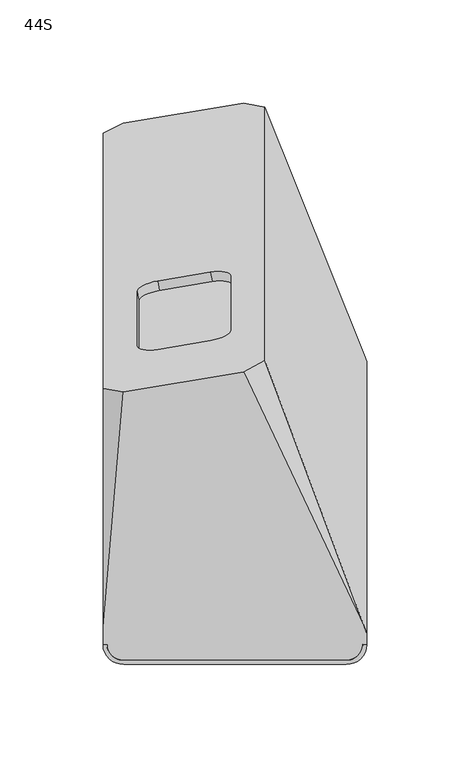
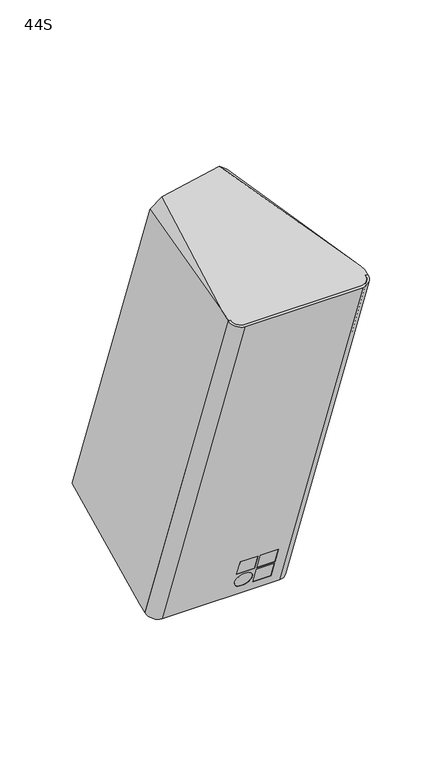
"""IFC4 building model written with IfcOpenShell, lengths in millimetres: proxy geometry, d&b xS-Series 44S Point Source : 44S."""

from ifc_helpers import new_model, si_unit, point, frame, frame_2d, origin, place, context, project, spatial, polyline, circle_curve, ellipse_curve, trimmed, segment, composite_curve, outline, extrude, source, transform, mapped, element, save
from ifc_brep_helpers import plane_surface, cylinder_surface, revolved_surface, advanced_brep


def proxy_44s_b701b6bb(model_context):
    return source(origin(), model_context, "Body", "SolidModel", [
        advanced_brep(
        [(54.0, -135.6612295, 156.4666939), (-54.078429, -135.6612295, 156.4666939), (-62.0435242, -128.129619, 159.0621446), (-64.0, -128.129619, 159.0621446), (-54.0, -137.5853886, 155.8036139), (54.0, -137.5853886, 155.8036139), (64.0349048, -128.0966138, 159.0735185), (62.0, -128.0966138, 159.0735185), (-54.078429, -3.3476788, -207.0617988), (54.0, -3.3476788, -207.0617988), (62.0, 4.1227875, -204.1963011), (64.0349048, 4.1227875, -204.1963011), (54.0, -5.2478898, -207.7906757), (-54.0, -5.2478898, -207.7906757), (-64.0, 4.0901931, -204.2088035), (-62.0435242, 4.0901931, -204.2088035), (25.3333333, -13.1402822, -180.1568421), (25.3333333, -18.7266112, -164.8085293), (9.0, -18.7266112, -164.8085293), (9.0, -13.1402822, -180.1568421), (44.0, -13.1402822, -180.1568421), (44.0, -18.7266112, -164.8085293), (27.6666667, -18.7266112, -164.8085293), (27.6666667, -13.1402822, -180.1568421), (44.0, -6.7559062, -197.6977711), (44.0, -12.3422352, -182.3494583), (27.6666667, -12.3422352, -182.3494583), (27.6666667, -6.7559062, -197.6977711), (17.1666667, -12.3422352, -182.3494583), (17.1666667, -6.7559062, -197.6977711), (25.3333333, -20.6387962, -165.5045078), (25.3333333, -15.0524672, -180.8528206), (9.0, -15.0524672, -180.8528206), (9.0, -20.6387962, -165.5045078), (44.0, -20.6387962, -165.5045078), (44.0, -15.0524672, -180.8528206), (27.6666667, -15.0524672, -180.8528206), (27.6666667, -20.6387962, -165.5045078), (44.0, -14.2544202, -183.0454367), (44.0, -8.6680912, -198.3937495), (27.6666667, -8.6680912, -198.3937495), (27.6666667, -14.2544202, -183.0454367), (17.1666667, -8.6680912, -198.3937495), (17.1666667, -14.2544202, -183.0454367)],
        [
            (0, 1),
            (1, 2, ellipse_curve(frame((-54.078429, -128.129619, 159.0621446), z_axis=(0.0, 0.3258048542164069, -0.9454370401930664), x_axis=(0.0, 0.9454370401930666, 0.32580485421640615)), 7.9662739, 7.9650952)),
            (2, 3),
            (3, 4, ellipse_curve(frame((-54.0, -128.129619, 159.0621446), z_axis=(0.0, -0.3258048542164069, 0.9454370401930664), x_axis=(0.0, -0.9454370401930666, -0.32580485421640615)), 10.0014799, 10.0)),
            (4, 5),
            (5, 6, ellipse_curve(frame((54.0, -128.0966138, 159.0735185), z_axis=(0.0, -0.3258048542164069, 0.9454370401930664), x_axis=(0.0, -0.9454370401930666, -0.32580485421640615)), 10.0363899, 10.0349048)),
            (6, 7),
            (7, 0, ellipse_curve(frame((54.0, -128.0966138, 159.0735185), z_axis=(0.0, 0.3258048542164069, -0.9454370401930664), x_axis=(0.0, 0.9454370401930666, 0.32580485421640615)), 8.0011839, 8.0)),
            (8, 9),
            (9, 10, ellipse_curve(frame((54.0, 4.1227875, -204.1963011), z_axis=(0.0, -0.35813421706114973, 0.9336701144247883), x_axis=(0.0, -0.9336701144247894, -0.35813421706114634)), 8.0011839, 8.0)),
            (10, 11),
            (11, 12, ellipse_curve(frame((54.0, 4.1227875, -204.1963011), z_axis=(0.0, 0.35813421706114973, -0.9336701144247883), x_axis=(0.0, 0.9336701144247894, 0.35813421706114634)), 10.0363899, 10.0349048)),
            (12, 13),
            (13, 14, ellipse_curve(frame((-54.0, 4.0901931, -204.2088035), z_axis=(0.0, 0.35813421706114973, -0.9336701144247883), x_axis=(0.0, 0.9336701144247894, 0.35813421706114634)), 10.0014799, 10.0)),
            (14, 15),
            (15, 8, ellipse_curve(frame((-54.078429, 4.0901931, -204.2088035), z_axis=(0.0, -0.35813421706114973, 0.9336701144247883), x_axis=(0.0, -0.9336701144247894, -0.35813421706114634)), 7.9662739, 7.9650952)),
            (0, 9),
            (8, 1),
            (16, 17),
            (17, 18),
            (18, 19),
            (19, 16),
            (20, 21),
            (21, 22),
            (22, 23),
            (23, 20),
            (24, 25),
            (25, 26),
            (26, 27),
            (27, 24),
            (28, 29, circle_curve(frame((17.1666667, -9.5490707, -190.0236147), z_axis=(0.0, -0.939692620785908, -0.3420201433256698), x_axis=(0.0, -0.3420201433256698, 0.939692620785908)), 8.1666667)),
            (29, 28, circle_curve(frame((17.1666667, -9.5490707, -190.0236147), z_axis=(0.0, -0.939692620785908, -0.3420201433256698), x_axis=(0.0, -0.3420201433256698, 0.939692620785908)), 8.1666667)),
            (15, 2),
            (14, 3),
            (13, 4),
            (12, 5),
            (30, 31),
            (31, 32),
            (32, 33),
            (33, 30),
            (34, 35),
            (35, 36),
            (36, 37),
            (37, 34),
            (38, 39),
            (39, 40),
            (40, 41),
            (41, 38),
            (42, 43, circle_curve(frame((17.1666667, -11.4612557, -190.7195931), z_axis=(0.0, 0.939692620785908, 0.3420201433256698), x_axis=(0.0, -0.3420201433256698, 0.939692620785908)), 8.1666667)),
            (43, 42, circle_curve(frame((17.1666667, -11.4612557, -190.7195931), z_axis=(0.0, 0.939692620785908, 0.3420201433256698), x_axis=(0.0, -0.3420201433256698, 0.939692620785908)), 8.1666667)),
            (11, 6),
            (10, 7),
            (16, 31),
            (30, 17),
            (19, 32),
            (18, 33),
            (20, 35),
            (34, 21),
            (23, 36),
            (22, 37),
            (24, 39),
            (38, 25),
            (27, 40),
            (26, 41),
            (28, 43),
            (42, 29),
        ],
        [
            plane_surface(frame((100.0, -157.7293536, 148.8618491), z_axis=(0.0, -0.3258048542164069, 0.9454370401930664), x_axis=(-1.0, 0.0, 0.0))),
            plane_surface(frame((100.0, 144.1511169, -150.4846792), z_axis=(0.0, 0.35813421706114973, -0.9336701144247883), x_axis=(-1.0, 0.0, 0.0))),
            plane_surface(frame((54.0, -138.7635332, 164.9902033), z_axis=(0.0, 0.9396926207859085, 0.3420201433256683), x_axis=(0.0, 0.3420201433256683, -0.9396926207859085))),
            revolved_surface(polyline([(-46.1133338, 4.137062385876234, -204.33757579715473), (-46.1133338, -128.1764882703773, 159.1909169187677)]), (-54.078429, 7.2393661, -212.8610852), (0.0, 0.3420201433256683, -0.9396926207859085)),
            plane_surface(frame((-62.0435242, -131.278792, 167.7144262), z_axis=(0.0, 0.9396926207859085, 0.3420201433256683), x_axis=(0.0, 0.3420201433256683, -0.9396926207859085))),
            cylinder_surface(frame((-54.0, 7.2393661, -212.8610852), z_axis=(0.0, -0.3420201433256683, 0.9396926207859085), x_axis=(1.0, 0.0, 0.0)), 10.0),
            plane_surface(frame((-54.0, -140.6757182, 164.2942248), z_axis=(0.0, -0.9396926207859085, -0.3420201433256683), x_axis=(0.0, 0.3420201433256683, -0.9396926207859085))),
            cylinder_surface(frame((54.0, 7.2721658, -212.849147), z_axis=(0.0, -0.3420201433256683, 0.9396926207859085), x_axis=(1.0, 0.0, 0.0)), 10.0349048),
            plane_surface(frame((64.0349048, -131.2459922, 167.7263644), z_axis=(0.0, 0.9396926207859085, 0.3420201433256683), x_axis=(0.0, 0.3420201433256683, -0.9396926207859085))),
            revolved_surface(polyline([(62.0, 4.16986212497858, -204.32563770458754), (62.0, -128.14368854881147, 159.2028550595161)]), (54.0, 7.2721658, -212.849147), (0.0, 0.3420201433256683, -0.9396926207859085)),
            plane_surface(frame((25.3333333, -15.0524672, -180.8528206), z_axis=(-1.0, 0.0, 0.0), x_axis=(0.0, 0.9396926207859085, 0.3420201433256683))),
            plane_surface(frame((9.0, -15.0524672, -180.8528206), z_axis=(0.0, -0.3420201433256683, 0.9396926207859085), x_axis=(0.0, 0.9396926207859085, 0.3420201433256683))),
            plane_surface(frame((9.0, -20.6387962, -165.5045078), z_axis=(1.0, 0.0, 0.0), x_axis=(0.0, 0.9396926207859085, 0.3420201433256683))),
            plane_surface(frame((25.3333333, -20.6387962, -165.5045078), z_axis=(0.0, 0.3420201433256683, -0.9396926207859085), x_axis=(0.0, 0.9396926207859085, 0.3420201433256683))),
            plane_surface(frame((44.0, -15.0524672, -180.8528206), z_axis=(-1.0, 0.0, 0.0), x_axis=(0.0, 0.9396926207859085, 0.3420201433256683))),
            plane_surface(frame((27.6666667, -15.0524672, -180.8528206), z_axis=(0.0, -0.3420201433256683, 0.9396926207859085), x_axis=(0.0, 0.9396926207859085, 0.3420201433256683))),
            plane_surface(frame((27.6666667, -20.6387962, -165.5045078), z_axis=(1.0, 0.0, 0.0), x_axis=(0.0, 0.9396926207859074, 0.3420201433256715))),
            plane_surface(frame((44.0, -20.6387962, -165.5045078), z_axis=(0.0, 0.3420201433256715, -0.9396926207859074), x_axis=(0.0, 0.9396926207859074, 0.3420201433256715))),
            plane_surface(frame((44.0, -8.6680912, -198.3937495), z_axis=(-1.0, 0.0, 0.0), x_axis=(0.0, 0.9396926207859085, 0.3420201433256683))),
            plane_surface(frame((27.6666667, -8.6680912, -198.3937495), z_axis=(0.0, -0.3420201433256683, 0.9396926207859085), x_axis=(0.0, 0.9396926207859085, 0.3420201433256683))),
            plane_surface(frame((27.6666667, -14.2544202, -183.0454367), z_axis=(1.0, 0.0, 0.0), x_axis=(0.0, 0.9396926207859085, 0.3420201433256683))),
            plane_surface(frame((44.0, -14.2544202, -183.0454367), z_axis=(0.0, 0.3420201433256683, -0.9396926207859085), x_axis=(0.0, 0.9396926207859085, 0.3420201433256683))),
            revolved_surface(polyline([(17.1666667, -14.254420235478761, -183.04543661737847), (17.1666667, -12.34223523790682, -182.3494581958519)]), (17.1666667, 45.1573782, -170.1120956), (0.0, -0.939692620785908, -0.3420201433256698)),
        ],
        [
            (0, [[1, 2, 3, 4, 5, 6, 7, 8]]),
            (1, [[9, 10, 11, 12, 13, 14, 15, 16]]),
            (2, [[17, -9, 18, -1], [19, 20, 21, 22], [23, 24, 25, 26], [27, 28, 29, 30], [31, 32]]),
            (3, [[-18, -16, 33, -2]]),
            (4, [[-33, -15, 34, -3]]),
            (5, [[-34, -14, 35, -4]]),
            (6, [[-35, -13, 36, -5], [37, 38, 39, 40], [41, 42, 43, 44], [45, 46, 47, 48], [49, 50]]),
            (7, [[-36, -12, 51, -6]]),
            (8, [[-51, -11, 52, -7]]),
            (9, [[-17, -8, -52, -10]]),
            (10, [[53, -37, 54, -19]]),
            (11, [[-53, -22, 55, -38]]),
            (12, [[-55, -21, 56, -39]]),
            (13, [[-56, -20, -54, -40]]),
            (14, [[57, -41, 58, -23]]),
            (15, [[-57, -26, 59, -42]]),
            (16, [[-59, -25, 60, -43]]),
            (17, [[-60, -24, -58, -44]]),
            (18, [[61, -45, 62, -27]]),
            (19, [[-61, -30, 63, -46]]),
            (20, [[-63, -29, 64, -47]]),
            (21, [[-64, -28, -62, -48]]),
            (22, [[65, -49, 66, -31]]),
            (22, [[-65, -32, -66, -50]]),
        ],
    ),
        extrude(outline(polyline([(0.0, -16.3333333), (0.0, 0.0), (5.0, 0.0), (5.0, -16.3333333), (0.0, -16.3333333)])), frame((9.0, -15.0524672, -180.8528206), z_axis=(0.0, -0.3420201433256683, 0.9396926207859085), x_axis=(0.0, 0.9396926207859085, 0.3420201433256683)), (0.0, 0.0, 1.0), 16.3333333),
        extrude(outline(polyline([(0.0, -16.3333333), (0.0, 0.0), (5.0, 0.0), (5.0, -16.3333333), (0.0, -16.3333333)])), frame((27.6666667, -15.0524672, -180.8528206), z_axis=(0.0, -0.3420201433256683, 0.9396926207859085), x_axis=(0.0, 0.9396926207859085, 0.3420201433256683)), (0.0, 0.0, 1.0), 16.3333333),
        extrude(outline(polyline([(0.0, -16.3333333), (0.0, 0.0), (5.0, 0.0), (5.0, -16.3333333), (0.0, -16.3333333)])), frame((27.6666667, -8.6680912, -198.3937495), z_axis=(0.0, -0.3420201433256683, 0.9396926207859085), x_axis=(0.0, 0.9396926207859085, 0.3420201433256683)), (0.0, 0.0, 1.0), 16.3333333),
        extrude(outline(composite_curve([segment(trimmed(circle_curve(frame_2d((-17.5, -26.8333333)), 8.1666667), [point((-17.5, -35.0))], [point((-17.5, -18.6666666))], False, "CARTESIAN"), True, "CONTINUOUS"), segment(trimmed(circle_curve(frame_2d((-17.5, -26.8333333)), 8.1666667), [point((-17.5, -18.6666666))], [point((-17.5, -35.0))], False, "CARTESIAN"), True, "CONTINUOUS")], self_intersect=False)), frame((-0.3333333, -20.6387962, -165.5045078), z_axis=(0.0, 0.939692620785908, 0.3420201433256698), x_axis=(-1.0, 0.0, 0.0)), (0.0, 0.0, 1.0), 5.0),
        advanced_brep(
        [(-64.0, -128.129619, 159.0621446), (-62.0435242, -128.129619, 159.0621446), (-54.078429, -135.6612295, 156.4666939), (54.0, -135.6612295, 156.4666939), (62.0, -128.0966138, 159.0735185), (64.0, -128.0966138, 159.0735185), (64.0, -122.4891625, 161.0058892), (62.7855103, -119.3331677, 162.0934692), (4.3760941, 4.4543343, 204.7515916), (-54.074657, -5.2912021, 201.3932051), (-64.0, -119.3331677, 162.0934692), (-62.0435242, 4.0901931, -204.2088035), (-64.0, 4.0901931, -204.2088035), (-64.0, 12.7771637, -200.8766829), (-54.074657, 125.3997609, -157.6772648), (4.3760941, 135.0240042, -153.9856281), (62.7855103, 12.7771637, -200.8766829), (64.0, 9.6604484, -202.0721827), (64.0, 4.1227875, -204.1963011), (62.0, 4.1227875, -204.1963011), (54.0, -3.3476788, -207.0617988), (-54.078429, -3.3476788, -207.0617988), (-64.0, -3.6006545, 191.6314967), (-64.0, 120.4200903, -149.1126992), (14.5000481, 132.9559633, -143.0843726), (14.5000481, 9.877315, 195.0714344), (-11.9474751, 19.6646756, 154.5459781), (-37.5524767, 15.4221019, 153.0018075), (-47.4005542, 17.2105442, 143.0109696), (-47.4005542, 43.5460952, 70.6546378), (-37.5524767, 48.5980558, 61.8516233), (-11.9474751, 52.8406295, 63.3957938), (-2.0993976, 51.0521871, 73.3866318), (-2.0993976, 24.7166361, 145.7429636), (-11.0792343, 15.0375927, 152.8618576), (-1.2311567, 20.0895532, 144.0588431), (-1.2311567, 46.4251042, 71.7025113), (-11.0792343, 48.2135466, 61.7116734), (-36.6842358, 43.9709729, 60.1675029), (-46.5323134, 38.9190123, 68.9705173), (-46.5323134, 12.5834613, 141.3268491), (-36.6842358, 10.795019, 151.3176871)],
        [
            (0, 1),
            (1, 2, ellipse_curve(frame((-54.078429, -128.129619, 159.0621446), z_axis=(0.0, -0.3258048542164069, 0.9454370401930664), x_axis=(0.0, -0.9454370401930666, -0.32580485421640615)), 7.9662739, 7.9650952)),
            (2, 3),
            (3, 4, ellipse_curve(frame((54.0, -128.0966138, 159.0735185), z_axis=(0.0, -0.3258048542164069, 0.9454370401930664), x_axis=(0.0, -0.9454370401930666, -0.32580485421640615)), 8.0011839, 8.0)),
            (4, 5),
            (5, 6),
            (6, 7),
            (7, 8),
            (8, 9),
            (9, 10),
            (10, 0),
            (11, 12),
            (12, 13),
            (13, 14),
            (14, 15),
            (15, 16),
            (16, 17),
            (17, 18),
            (18, 19),
            (19, 20, ellipse_curve(frame((54.0, 4.1227875, -204.1963011), z_axis=(0.0, 0.35813421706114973, -0.9336701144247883), x_axis=(0.0, 0.9336701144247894, 0.35813421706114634)), 8.0011839, 8.0)),
            (20, 21),
            (21, 11, ellipse_curve(frame((-54.078429, 4.0901931, -204.2088035), z_axis=(0.0, 0.35813421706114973, -0.9336701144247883), x_axis=(0.0, 0.9336701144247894, 0.35813421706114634)), 7.9662739, 7.9650952)),
            (0, 12),
            (11, 1),
            (21, 2),
            (20, 3),
            (19, 4),
            (18, 5),
            (17, 6),
            (10, 22),
            (22, 23),
            (23, 13),
            (16, 24),
            (24, 25),
            (25, 7),
            (9, 22),
            (23, 14),
            (15, 24),
            (25, 8),
            (26, 27),
            (27, 28, circle_curve(frame((-37.5524767, 18.8423033, 143.6048813), z_axis=(0.17364817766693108, -0.9254165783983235, -0.33682408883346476), x_axis=(0.9848077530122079, 0.16317591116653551, 0.05939117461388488)), 10.0)),
            (28, 29),
            (29, 30, circle_curve(frame((-37.5524767, 45.1778543, 71.2485495), z_axis=(0.17364817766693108, -0.9254165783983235, -0.33682408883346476), x_axis=(0.9848077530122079, 0.16317591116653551, 0.05939117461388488)), 10.0)),
            (30, 31),
            (31, 32, circle_curve(frame((-11.9474751, 49.420428, 72.79272), z_axis=(0.17364817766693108, -0.9254165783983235, -0.33682408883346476), x_axis=(0.9848077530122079, 0.16317591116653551, 0.05939117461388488)), 10.0)),
            (32, 33),
            (33, 26, circle_curve(frame((-11.9474751, 23.084877, 145.1490518), z_axis=(0.17364817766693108, -0.9254165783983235, -0.33682408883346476), x_axis=(0.9848077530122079, 0.16317591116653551, 0.05939117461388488)), 10.0)),
            (34, 35, circle_curve(frame((-11.0792343, 18.4577941, 143.4649314), z_axis=(-0.17364817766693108, 0.9254165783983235, 0.33682408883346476), x_axis=(0.9848077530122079, 0.16317591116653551, 0.05939117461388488)), 10.0)),
            (35, 36),
            (36, 37, circle_curve(frame((-11.0792343, 44.7933451, 71.1085996), z_axis=(-0.17364817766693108, 0.9254165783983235, 0.33682408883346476), x_axis=(0.9848077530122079, 0.16317591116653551, 0.05939117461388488)), 10.0)),
            (37, 38),
            (38, 39, circle_curve(frame((-36.6842358, 40.5507714, 69.5644291), z_axis=(-0.17364817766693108, 0.9254165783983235, 0.33682408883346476), x_axis=(0.9848077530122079, 0.16317591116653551, 0.05939117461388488)), 10.0)),
            (39, 40),
            (40, 41, circle_curve(frame((-36.6842358, 14.2152204, 141.9207609), z_axis=(-0.17364817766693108, 0.9254165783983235, 0.33682408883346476), x_axis=(0.9848077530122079, 0.16317591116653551, 0.05939117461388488)), 10.0)),
            (41, 34),
            (41, 27),
            (26, 34),
            (40, 28),
            (39, 29),
            (38, 30),
            (37, 31),
            (36, 32),
            (35, 33),
        ],
        [
            plane_surface(frame((100.0, -157.7293536, 148.8618491), z_axis=(0.0, -0.3258048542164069, 0.9454370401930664), x_axis=(-1.0, 0.0, 0.0))),
            plane_surface(frame((100.0, 144.1511169, -150.4846792), z_axis=(0.0, 0.35813421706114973, -0.9336701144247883), x_axis=(-1.0, 0.0, 0.0))),
            plane_surface(frame((-64.0, -132.8675629, 172.0795383), z_axis=(0.0, -0.9396926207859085, -0.3420201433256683), x_axis=(0.0, 0.3420201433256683, -0.9396926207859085))),
            cylinder_surface(frame((-54.078429, 8.8281369, -217.2261972), z_axis=(0.0, -0.3420201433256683, 0.9396926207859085), x_axis=(-1.0, 0.0, 0.0)), 7.9650952),
            plane_surface(frame((-54.078429, -140.352304, 169.3553153), z_axis=(0.0, -0.9396926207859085, -0.3420201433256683), x_axis=(0.0, 0.3420201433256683, -0.9396926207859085))),
            cylinder_surface(frame((54.0, 8.8609367, -217.2142591), z_axis=(0.0, -0.3420201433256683, 0.9396926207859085), x_axis=(-1.0, 0.0, 0.0)), 8.0),
            plane_surface(frame((62.0, -132.8347631, 172.0914765), z_axis=(0.0, -0.9396926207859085, -0.3420201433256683), x_axis=(0.0, 0.3420201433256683, -0.9396926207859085))),
            plane_surface(frame((64.0, -132.8347631, 172.0914765), z_axis=(1.0, 0.0, 0.0), x_axis=(0.0, 0.3420201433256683, -0.9396926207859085))),
            plane_surface(frame((-64.0, -127.2622069, 174.119721), z_axis=(-1.0, 0.0, 0.0), x_axis=(0.0, 0.3420201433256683, -0.9396926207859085))),
            plane_surface(frame((14.5000481, 71.4166392, 25.9935309), z_axis=(0.9397208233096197, 0.3213209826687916, 0.11695127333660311), x_axis=(0.0, -0.3420201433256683, 0.9396926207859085))),
            plane_surface(frame((-57.232233, 7.5626024, 201.431055), z_axis=(-0.7053631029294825, -0.17529705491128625, 0.6868288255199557), x_axis=(-0.7071067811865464, 0.24184476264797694, -0.6644630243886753))),
            plane_surface(frame((-57.232233, 135.2706759, -149.4439933), z_axis=(-0.7053631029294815, 0.30719972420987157, -0.6388201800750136), x_axis=(0.7071067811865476, 0.24184476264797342, -0.6644630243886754))),
            plane_surface(frame((7.7322812, 135.2706759, -149.4439933), z_axis=(0.6719558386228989, 0.5224136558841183, -0.5249374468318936), x_axis=(0.7071067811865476, -0.24184476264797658, 0.6644630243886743))),
            plane_surface(frame((7.7322812, 7.5626024, 201.431055), z_axis=(0.6719558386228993, 0.06276879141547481, 0.7379264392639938), x_axis=(-0.7071067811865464, -0.24184476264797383, 0.6644630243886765))),
            plane_surface(frame((-81.2585403, -29.95494, 255.1417366), z_axis=(-0.1736481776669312, 0.9254165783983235, 0.33682408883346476), x_axis=(0.0, 0.3420201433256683, -0.9396926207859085))),
            plane_surface(frame((-63.1317591, 6.4128452, 149.7227063), z_axis=(-0.1736481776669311, 0.9254165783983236, 0.3368240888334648), x_axis=(-0.984807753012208, -0.1631759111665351, -0.05939117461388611))),
            plane_surface(frame((-11.0792343, 15.0375927, 152.8618576), z_axis=(0.0, 0.34202014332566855, -0.9396926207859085), x_axis=(-0.17364817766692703, 0.9254165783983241, 0.336824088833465))),
            revolved_surface(polyline([(-26.836158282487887, 15.846979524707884, 142.51467260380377), (-27.704399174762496, 20.474062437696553, 144.1987930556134)]), (-37.5524767, 18.8423033, 143.6048813), (0.17364817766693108, -0.9254165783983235, -0.33682408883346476)),
            plane_surface(frame((-46.5323134, 12.5834613, 141.3268491), z_axis=(0.9848077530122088, 0.16317591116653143, 0.05939117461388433), x_axis=(-0.17364817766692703, 0.9254165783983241, 0.336824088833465))),
            revolved_surface(polyline([(-26.836158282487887, 42.18253052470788, 70.1583408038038), (-27.704399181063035, 46.80961347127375, 71.84246126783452)]), (-37.5524767, 45.1778543, 71.2485495), (0.17364817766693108, -0.9254165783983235, -0.33682408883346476)),
            plane_surface(frame((-36.6842358, 43.9709729, 60.1675029), z_axis=(0.0, -0.34202014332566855, 0.9396926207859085), x_axis=(-0.17364817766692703, 0.9254165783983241, 0.336824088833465))),
            revolved_surface(polyline([(-1.2311566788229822, 46.42510420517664, 71.70251129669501), (-2.0993975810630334, 51.05218717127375, 73.38663176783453)]), (-11.9474751, 49.420428, 72.79272), (0.17364817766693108, -0.9254165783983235, -0.33682408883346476)),
            plane_surface(frame((-1.2311567, 46.4251042, 71.7025113), z_axis=(-0.9848077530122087, -0.16317591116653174, -0.0593911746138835), x_axis=(-0.17364817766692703, 0.9254165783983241, 0.336824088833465))),
            revolved_surface(polyline([(-1.2311566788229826, 20.089553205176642, 144.058843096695), (-2.0993975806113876, 24.71663616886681, 145.74296356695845)]), (-11.9474751, 23.084877, 145.1490518), (0.17364817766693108, -0.9254165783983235, -0.33682408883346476)),
        ],
        [
            (0, [[1, 2, 3, 4, 5, 6, 7, 8, 9, 10, 11]]),
            (1, [[12, 13, 14, 15, 16, 17, 18, 19, 20, 21, 22]]),
            (2, [[23, -12, 24, -1]]),
            (3, [[-24, -22, 25, -2]]),
            (4, [[-25, -21, 26, -3]]),
            (5, [[-26, -20, 27, -4]]),
            (6, [[-27, -19, 28, -5]]),
            (7, [[-28, -18, 29, -6]]),
            (8, [[-23, -11, 30, 31, 32, -13]]),
            (9, [[-29, -17, 33, 34, 35, -7]]),
            (10, [[-30, -10, 36]]),
            (11, [[-32, 37, -14]]),
            (12, [[-33, -16, 38]]),
            (13, [[-35, 39, -8]]),
            (14, [[-31, -36, -9, -39, -34, -38, -15, -37], [40, 41, 42, 43, 44, 45, 46, 47]]),
            (15, [[48, 49, 50, 51, 52, 53, 54, 55]]),
            (16, [[-55, 56, -40, 57]]),
            (17, [[-54, 58, -41, -56]]),
            (18, [[-53, 59, -42, -58]]),
            (19, [[-52, 60, -43, -59]]),
            (20, [[-51, 61, -44, -60]]),
            (21, [[-50, 62, -45, -61]]),
            (22, [[-49, 63, -46, -62]]),
            (23, [[-48, -57, -47, -63]]),
        ],
    ),
    ])


if __name__ == "__main__":
    model = new_model("IFC4")
    model_context = context("Model", 3, world=origin())
    ifc_project = project(units=[si_unit("LENGTHUNIT", "METRE", prefix="MILLI")], contexts=[model_context])
    site = spatial("IfcSite", under=ifc_project)
    building = spatial("IfcBuilding", under=site)
    placement = place(None, origin())
    proxy_44s_shape = proxy_44s_b701b6bb(model_context)
    element("IfcBuildingElementProxy", 1, Name="d&b xS-Series 44S Point Source : 44S", ObjectType="d&b xS-Series 44S Point Source : 44S", at=placement, inside=building, context=model_context, shape_type="MappedRepresentation", body=[
        mapped(proxy_44s_shape, transform((0.0, 0.0, 0.0), x_axis=(1.0, 0.0, 0.0), y_axis=(0.0, 1.0, 0.0), z_axis=(0.0, 0.0, 1.0))),
    ])
    save(model, "model.ifc")
